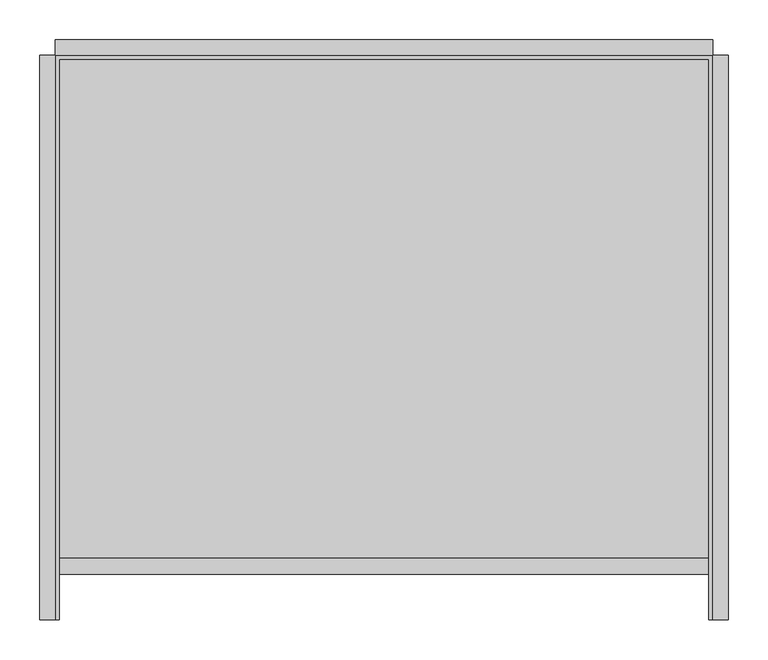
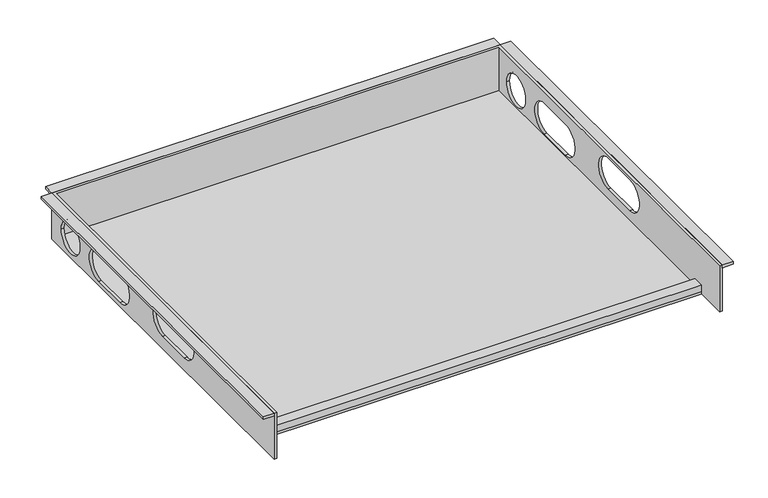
"""IFC4 building model written with IfcOpenShell, lengths in millimetres: valve geometry, Superpipe Manifold Cabinet Concealed Version : Superpipe Manifold Cabinet Concealed Version-9&10Way."""

from ifc_helpers import new_model, si_unit, frame, origin, place, context, project, spatial, polyline, circle_curve, outline, extrude, source, transform, mapped, element, save
from ifc_brep_helpers import plane_surface, revolved_surface, advanced_brep


def valve_7287f850(model_context):
    return source(origin(), model_context, "Body", "SolidModel", [
        extrude(outline(polyline([(-298.5, -72.0341988), (-278.5, -72.0341988), (-278.5, -77.0341988), (-293.5, -77.0341988), (-293.5, -85.0), (-298.5, -85.0), (-298.5, -72.0341988)])), frame((-410.0, 0.0, 0.0), z_axis=(1.0, 0.0, 0.0), x_axis=(0.0, 1.0, 0.0)), (0.0, 0.0, 1.0), 820.0),
        extrude(outline(polyline([(435.0, -356.5), (415.0, -356.5), (415.0, 356.5), (435.0, 356.5), (435.0, -356.5)])), frame((0.0, 0.0, -5.0), z_axis=(0.0, 0.0, 1.0), x_axis=(1.0, 0.0, 0.0)), (0.0, 0.0, 1.0), 5.0),
        extrude(outline(polyline([(-415.0, -356.5), (-435.0, -356.5), (-435.0, 356.5), (-415.0, 356.5), (-415.0, -356.5)])), frame((0.0, 0.0, -5.0), z_axis=(0.0, 0.0, 1.0), x_axis=(1.0, 0.0, 0.0)), (0.0, 0.0, 1.0), 5.0),
        extrude(outline(polyline([(415.0, 376.5), (415.0, 356.5), (-415.0, 356.5), (-415.0, 376.5), (415.0, 376.5)])), frame((0.0, 0.0, -5.0), z_axis=(0.0, 0.0, 1.0), x_axis=(1.0, 0.0, 0.0)), (0.0, 0.0, 1.0), 5.0),
        advanced_brep(
        [(415.0, 356.5, 0.0), (-415.0, 356.5, 0.0), (-415.0, -356.5, 0.0), (-410.0, -356.5, 0.0), (-410.0, 351.5, 0.0), (410.0, 351.5, 0.0), (410.0, -356.5, 0.0), (415.0, -356.5, 0.0), (415.0, 356.5, -90.0), (415.0, -356.5, -90.0), (410.0, -356.5, -90.0), (410.0, -298.5, -90.0), (-410.0, -298.5, -90.0), (-410.0, -356.5, -90.0), (-415.0, -356.5, -90.0), (-415.0, 356.5, -90.0), (-415.0, 266.5, -52.5), (-415.0, 326.5, -52.5), (-415.0, 138.0, -82.5), (-415.0, 206.5, -82.5), (-415.0, 206.5, -22.5), (-415.0, 138.0, -22.5), (-415.0, -68.5, -66.0), (-415.0, 1.5, -66.0), (-415.0, 1.5, -6.0), (-415.0, -68.5, -6.0), (415.0, 326.5, -52.5), (415.0, 266.5, -52.5), (415.0, 206.5, -82.5), (415.0, 138.0, -82.5), (415.0, 138.0, -22.5), (415.0, 206.5, -22.5), (415.0, 1.5, -66.0), (415.0, -68.5, -66.0), (415.0, -68.5, -6.0), (415.0, 1.5, -6.0), (410.0, 351.5, -85.0), (-410.0, 351.5, -85.0), (-410.0, -298.5, -85.0), (410.0, -298.5, -85.0), (-410.0, 326.5, -52.5), (-410.0, 266.5, -52.5), (-410.0, 206.5, -82.5), (-410.0, 138.0, -82.5), (-410.0, 138.0, -22.5), (-410.0, 206.5, -22.5), (-410.0, 1.5, -66.0), (-410.0, -68.5, -66.0), (-410.0, -68.5, -6.0), (-410.0, 1.5, -6.0), (410.0, 266.5, -52.5), (410.0, 326.5, -52.5), (410.0, 138.0, -82.5), (410.0, 206.5, -82.5), (410.0, 206.5, -22.5), (410.0, 138.0, -22.5), (410.0, -68.5, -66.0), (410.0, 1.5, -66.0), (410.0, 1.5, -6.0), (410.0, -68.5, -6.0)],
        [
            (0, 1),
            (1, 2),
            (2, 3),
            (3, 4),
            (4, 5),
            (5, 6),
            (6, 7),
            (7, 0),
            (8, 9),
            (9, 10),
            (10, 11),
            (11, 12),
            (12, 13),
            (13, 14),
            (14, 15),
            (15, 8),
            (0, 8),
            (15, 1),
            (14, 2),
            (16, 17, circle_curve(frame((-415.0, 296.5, -52.5), z_axis=(1.0, 0.0, 0.0), x_axis=(0.0, -1.0, 0.0)), 30.0)),
            (17, 16, circle_curve(frame((-415.0, 296.5, -52.5), z_axis=(1.0, 0.0, 0.0), x_axis=(0.0, -1.0, 0.0)), 30.0)),
            (18, 19),
            (19, 20, circle_curve(frame((-415.0, 206.5, -52.5), z_axis=(1.0, 0.0, 0.0), x_axis=(0.0, -1.0, 0.0)), 30.0)),
            (20, 21),
            (21, 18, circle_curve(frame((-415.0, 138.0, -52.5), z_axis=(1.0, 0.0, 0.0), x_axis=(0.0, -1.0, 0.0)), 30.0)),
            (22, 23),
            (23, 24, circle_curve(frame((-415.0, 1.5, -36.0), z_axis=(1.0, 0.0, 0.0), x_axis=(0.0, -1.0, 0.0)), 30.0)),
            (24, 25),
            (25, 22, circle_curve(frame((-415.0, -68.5, -36.0), z_axis=(1.0, 0.0, 0.0), x_axis=(0.0, -1.0, 0.0)), 30.0)),
            (13, 3),
            (9, 7),
            (6, 10),
            (26, 27, circle_curve(frame((415.0, 296.5, -52.5), z_axis=(-1.0, 0.0, 0.0), x_axis=(0.0, -1.0, 0.0)), 30.0)),
            (27, 26, circle_curve(frame((415.0, 296.5, -52.5), z_axis=(-1.0, 0.0, 0.0), x_axis=(0.0, -1.0, 0.0)), 30.0)),
            (28, 29),
            (29, 30, circle_curve(frame((415.0, 138.0, -52.5), z_axis=(-1.0, 0.0, 0.0), x_axis=(0.0, -1.0, 0.0)), 30.0)),
            (30, 31),
            (31, 28, circle_curve(frame((415.0, 206.5, -52.5), z_axis=(-1.0, 0.0, 0.0), x_axis=(0.0, -1.0, 0.0)), 30.0)),
            (32, 33),
            (33, 34, circle_curve(frame((415.0, -68.5, -36.0), z_axis=(-1.0, 0.0, 0.0), x_axis=(0.0, -1.0, 0.0)), 30.0)),
            (34, 35),
            (35, 32, circle_curve(frame((415.0, 1.5, -36.0), z_axis=(-1.0, 0.0, 0.0), x_axis=(0.0, -1.0, 0.0)), 30.0)),
            (36, 37),
            (37, 38),
            (38, 39),
            (39, 36),
            (36, 5),
            (4, 37),
            (12, 38),
            (40, 41, circle_curve(frame((-410.0, 296.5, -52.5), z_axis=(-1.0, 0.0, 0.0), x_axis=(0.0, -1.0, 0.0)), 30.0)),
            (41, 40, circle_curve(frame((-410.0, 296.5, -52.5), z_axis=(-1.0, 0.0, 0.0), x_axis=(0.0, -1.0, 0.0)), 30.0)),
            (42, 43),
            (43, 44, circle_curve(frame((-410.0, 138.0, -52.5), z_axis=(-1.0, 0.0, 0.0), x_axis=(0.0, -1.0, 0.0)), 30.0)),
            (44, 45),
            (45, 42, circle_curve(frame((-410.0, 206.5, -52.5), z_axis=(-1.0, 0.0, 0.0), x_axis=(0.0, -1.0, 0.0)), 30.0)),
            (46, 47),
            (47, 48, circle_curve(frame((-410.0, -68.5, -36.0), z_axis=(-1.0, 0.0, 0.0), x_axis=(0.0, -1.0, 0.0)), 30.0)),
            (48, 49),
            (49, 46, circle_curve(frame((-410.0, 1.5, -36.0), z_axis=(-1.0, 0.0, 0.0), x_axis=(0.0, -1.0, 0.0)), 30.0)),
            (39, 11),
            (50, 51, circle_curve(frame((410.0, 296.5, -52.5), z_axis=(1.0, 0.0, 0.0), x_axis=(0.0, -1.0, 0.0)), 30.0)),
            (51, 50, circle_curve(frame((410.0, 296.5, -52.5), z_axis=(1.0, 0.0, 0.0), x_axis=(0.0, -1.0, 0.0)), 30.0)),
            (52, 53),
            (53, 54, circle_curve(frame((410.0, 206.5, -52.5), z_axis=(1.0, 0.0, 0.0), x_axis=(0.0, -1.0, 0.0)), 30.0)),
            (54, 55),
            (55, 52, circle_curve(frame((410.0, 138.0, -52.5), z_axis=(1.0, 0.0, 0.0), x_axis=(0.0, -1.0, 0.0)), 30.0)),
            (56, 57),
            (57, 58, circle_curve(frame((410.0, 1.5, -36.0), z_axis=(1.0, 0.0, 0.0), x_axis=(0.0, -1.0, 0.0)), 30.0)),
            (58, 59),
            (59, 56, circle_curve(frame((410.0, -68.5, -36.0), z_axis=(1.0, 0.0, 0.0), x_axis=(0.0, -1.0, 0.0)), 30.0)),
            (40, 17),
            (16, 41),
            (26, 51),
            (50, 27),
            (42, 19),
            (18, 43),
            (28, 53),
            (52, 29),
            (21, 44),
            (55, 30),
            (20, 45),
            (54, 31),
            (46, 23),
            (22, 47),
            (32, 57),
            (56, 33),
            (25, 48),
            (59, 34),
            (24, 49),
            (58, 35),
        ],
        [
            plane_surface(frame((-415.0, 356.5, 0.0), z_axis=(0.0, 0.0, 1.0), x_axis=(-1.0, 0.0, 0.0))),
            plane_surface(frame((-415.0, 356.5, -90.0), z_axis=(0.0, 0.0, -1.0), x_axis=(1.0, 0.0, 0.0))),
            plane_surface(frame((415.0, 356.5, 0.0), z_axis=(0.0, 1.0, 0.0), x_axis=(0.0, 0.0, -1.0))),
            plane_surface(frame((-415.0, 356.5, 0.0), z_axis=(-1.0, 0.0, 0.0), x_axis=(0.0, 0.0, -1.0))),
            plane_surface(frame((-415.0, -356.5, 0.0), z_axis=(0.0, -1.0, 0.0), x_axis=(0.0, 0.0, -1.0))),
            plane_surface(frame((415.0, -356.5, 0.0), z_axis=(1.0, 0.0, 0.0), x_axis=(0.0, 0.0, -1.0))),
            plane_surface(frame((-410.0, 351.5, -85.0), z_axis=(0.0, 0.0, 1.0), x_axis=(1.0, 0.0, 0.0))),
            plane_surface(frame((410.0, 351.5, 0.0), z_axis=(0.0, -1.0, 0.0), x_axis=(0.0, 0.0, -1.0))),
            plane_surface(frame((-410.0, 351.5, 0.0), z_axis=(1.0, 0.0, 0.0), x_axis=(0.0, 0.0, -1.0))),
            plane_surface(frame((410.0, -356.5, 0.0), z_axis=(-1.0, 0.0, 0.0), x_axis=(0.0, 0.0, -1.0))),
            plane_surface(frame((410.0, -298.5, -85.0), z_axis=(0.0, -1.0, 0.0), x_axis=(0.0, 0.0, -1.0))),
            revolved_surface(polyline([(-415.0, 266.5, -52.5), (-410.0, 266.5, -52.5)]), (415.0, 296.5, -52.5), (-1.0, 0.0, 0.0)),
            revolved_surface(polyline([(410.0, 266.5, -52.5), (415.0, 266.5, -52.5)]), (415.0, 296.5, -52.5), (-1.0, 0.0, 0.0)),
            plane_surface(frame((-415.0, 206.5, -82.5), z_axis=(0.0, 0.0, 1.0), x_axis=(1.0, 0.0, 0.0))),
            revolved_surface(polyline([(-415.0, 108.0, -52.5), (-410.0, 108.0, -52.5)]), (-415.0, 138.0, -52.5), (-1.0, 0.0, 0.0)),
            revolved_surface(polyline([(410.0, 108.0, -52.5), (415.0, 108.0, -52.5)]), (-415.0, 138.0, -52.5), (-1.0, 0.0, 0.0)),
            plane_surface(frame((-415.0, 138.0, -22.5), z_axis=(0.0, 0.0, -1.0), x_axis=(1.0, 0.0, 0.0))),
            revolved_surface(polyline([(-415.0, 176.5, -52.5), (-410.0, 176.5, -52.5)]), (-415.0, 206.5, -52.5), (-1.0, 0.0, 0.0)),
            revolved_surface(polyline([(410.0, 176.5, -52.5), (415.0, 176.5, -52.5)]), (-415.0, 206.5, -52.5), (-1.0, 0.0, 0.0)),
            plane_surface(frame((-415.0, 1.5, -66.0), z_axis=(0.0, 0.0, 1.0), x_axis=(1.0, 0.0, 0.0))),
            revolved_surface(polyline([(-415.0, -98.5, -36.0), (-410.0, -98.5, -36.0)]), (-415.0, -68.5, -36.0), (-1.0, 0.0, 0.0)),
            revolved_surface(polyline([(410.0, -98.5, -36.0), (415.0, -98.5, -36.0)]), (-415.0, -68.5, -36.0), (-1.0, 0.0, 0.0)),
            plane_surface(frame((-415.0, -68.5, -6.0), z_axis=(0.0, 0.0, -1.0), x_axis=(1.0, 0.0, 0.0))),
            revolved_surface(polyline([(-415.0, -28.5, -36.0), (-410.0, -28.5, -36.0)]), (-415.0, 1.5, -36.0), (-1.0, 0.0, 0.0)),
            revolved_surface(polyline([(410.0, -28.5, -36.0), (415.0, -28.5, -36.0)]), (-415.0, 1.5, -36.0), (-1.0, 0.0, 0.0)),
        ],
        [
            (0, [[1, 2, 3, 4, 5, 6, 7, 8]]),
            (1, [[9, 10, 11, 12, 13, 14, 15, 16]]),
            (2, [[-1, 17, -16, 18]]),
            (3, [[-2, -18, -15, 19], [20, 21], [22, 23, 24, 25], [26, 27, 28, 29]]),
            (4, [[-19, -14, 30, -3]]),
            (4, [[31, -7, 32, -10]]),
            (5, [[-8, -31, -9, -17], [33, 34], [35, 36, 37, 38], [39, 40, 41, 42]]),
            (6, [[43, 44, 45, 46]]),
            (7, [[-43, 47, -5, 48]]),
            (8, [[-48, -4, -30, -13, 49, -44], [50, 51], [52, 53, 54, 55], [56, 57, 58, 59]]),
            (9, [[-47, -46, 60, -11, -32, -6], [61, 62], [63, 64, 65, 66], [67, 68, 69, 70]]),
            (10, [[-49, -12, -60, -45]]),
            (11, [[71, -20, 72, -50]]),
            (12, [[73, -61, 74, -33]]),
            (11, [[-71, -51, -72, -21]]),
            (12, [[-73, -34, -74, -62]]),
            (13, [[75, -22, 76, -52]]),
            (13, [[77, -63, 78, -35]]),
            (14, [[-76, -25, 79, -53]]),
            (15, [[-78, -66, 80, -36]]),
            (16, [[-79, -24, 81, -54]]),
            (16, [[-80, -65, 82, -37]]),
            (17, [[-75, -55, -81, -23]]),
            (18, [[-77, -38, -82, -64]]),
            (19, [[83, -26, 84, -56]]),
            (19, [[85, -67, 86, -39]]),
            (20, [[-84, -29, 87, -57]]),
            (21, [[-86, -70, 88, -40]]),
            (22, [[-87, -28, 89, -58]]),
            (22, [[-88, -69, 90, -41]]),
            (23, [[-83, -59, -89, -27]]),
            (24, [[-85, -42, -90, -68]]),
        ],
    ),
    ])


if __name__ == "__main__":
    model = new_model("IFC4")
    model_context = context("Model", 3, world=origin())
    ifc_project = project(units=[si_unit("LENGTHUNIT", "METRE", prefix="MILLI")], contexts=[model_context])
    site = spatial("IfcSite", under=ifc_project)
    building = spatial("IfcBuilding", under=site)
    placement = place(None, origin())
    valve_shape = valve_7287f850(model_context)
    element("IfcValve", 1, ObjectType="Superpipe Manifold Cabinet Concealed Version : Superpipe Manifold Cabinet Concealed Version-9&10Way", at=placement, inside=building, context=model_context, shape_type="MappedRepresentation", body=[
        mapped(valve_shape, transform((0.0, 0.0, 0.0), x_axis=(1.0, 0.0, 0.0), y_axis=(0.0, 1.0, 0.0), z_axis=(0.0, 0.0, 1.0))),
    ])
    save(model, "model.ifc")
